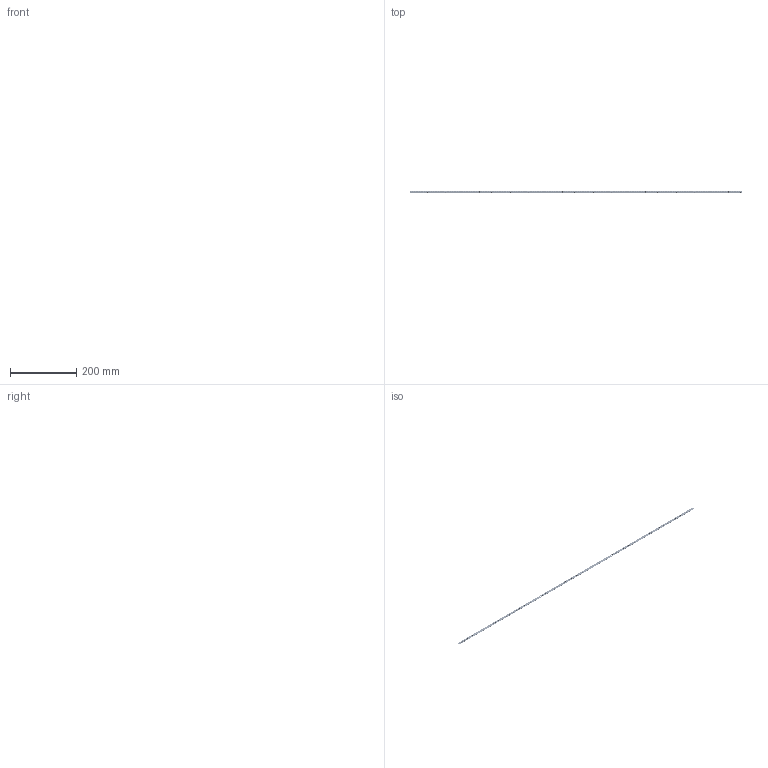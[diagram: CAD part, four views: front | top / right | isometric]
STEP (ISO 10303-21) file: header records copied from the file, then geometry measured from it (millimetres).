
FILE_DESCRIPTION(('Open CASCADE Model'),'2;1');
FILE_NAME('Open CASCADE Shape Model','2019-04-19T15:14:25',('Author'),( 'Open CASCADE'),'Open CASCADE STEP processor 6.8','Open CASCADE 6.8' ,'Unknown');
FILE_SCHEMA(('AUTOMOTIVE_DESIGN { 1 0 10303 214 1 1 1 1 }'));
Length unit declared in the file: millimetre
Products named in the file (227): PCB; Board; U1; SOT23-6; DB2; SOD-123; D1; LED2835; R1; R0805; DB1; SOD-323; D2; D2_1; DB1_1; R1_1; D1_1; DB2_1; U1_1; DB1_2; R1_2; DB2_2; U1_2; DB1_3; R1_3; DB2_3; U1_3; DB1_4; R1_4; DB2_4; U1_4; DB1_5; R1_5; DB2_5; U1_5; DB1_6; R1_6; DB2_6; U1_6; DB1_7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
Assembly tree (441 placements, depth 3):
  PCB
    Board
    U1
      SOT23-6
    DB2
      SOD-123
    D1
      LED2835
    R1
      R0805
    DB1
      SOD-323
    D2
      LED2835
    D2
      LED2835
    D2
      LED2835
    D2
      LED2835
    D2
      LED2835
    D2
      LED2835
    D2_1
      LED2835
    D2_1
      LED2835
    D2_1
      LED2835
    D2_1
      LED2835
    D2_1
      LED2835
    D2_1
      LED2835
    DB1_1
      SOD-323
    R1_1
      R0805
    D1_1
      LED2835
    DB2_1
      SOD-123
    U1_1
      SOT23-6
    D2_1
      LED2835
    D2_1
      LED2835
    D2_1
      LED2835
    D2_1
      LED2835
    D2_1
      LED2835
    D2_1
      LED2835
    DB1_2
      SOD-323
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Bounding box: 1000 x 8 x 1.88 mm (x, y, z)
Volume: 4582.6 mm3; surface area: 22022.6 mm2
Topology: 341 solids, 341 shells, 21106 faces, 55132 edges, 34808 vertices
Faces by surface type: plane 10866, bspline 6080, cylinder 3280, sphere 880
Full cylindrical faces by diameter (mm): 0.9 x40
Entity records: 91085 total; most frequent: CARTESIAN_POINT 51882, DIRECTION 5616, ORIENTED_EDGE 3630, PCURVE 3630, DEFINITIONAL_REPRESENTATION 3630, LINE 3404, VECTOR 3404, EDGE_CURVE 1815
